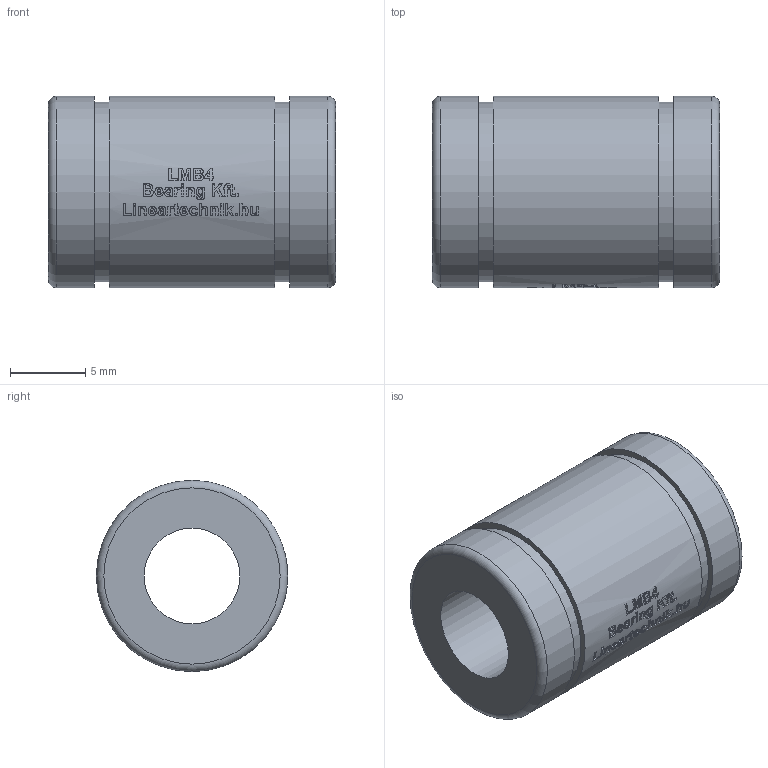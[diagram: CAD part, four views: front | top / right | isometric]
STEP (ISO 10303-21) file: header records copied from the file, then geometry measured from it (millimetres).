
FILE_DESCRIPTION(/* description */ (''),/* implementation_level */ '2;1');
FILE_NAME(/* name */ 'LMB4',/* time_stamp */ '2019-05-16T15:31:38+02:00',/* author */ ('VĂ©gh MĂˇtĂ©'),/* organization */ ('Bearing Kft'),/* preprocessor_version */ 'ST-DEVELOPER v16.7',/* originating_system */ 'DEX',/* authorisation */ $);
FILE_SCHEMA (('AUTOMOTIVE_DESIGN {1 0 10303 214 3 1 1}'));
Length unit declared in the file: millimetre
Products named in the file (1): LMB4
Bounding box: 19.05 x 12.7 x 12.7 mm (x, y, z)
Volume: 1774.7 mm3; surface area: 1378.6 mm2
Topology: 1 solids, 1 shells, 305 faces, 762 edges, 508 vertices
Faces by surface type: plane 162, bspline 90, cylinder 51, torus 2
Full cylindrical faces by diameter (mm): 6.35 x1, 11.906 x2, 12.7 x3
Entity records: 12964 total; most frequent: CARTESIAN_POINT 6144, ORIENTED_EDGE 1502, DIRECTION 1154, EDGE_CURVE 751, VERTEX_POINT 506, LINE 410, VECTOR 410, AXIS2_PLACEMENT_3D 372
